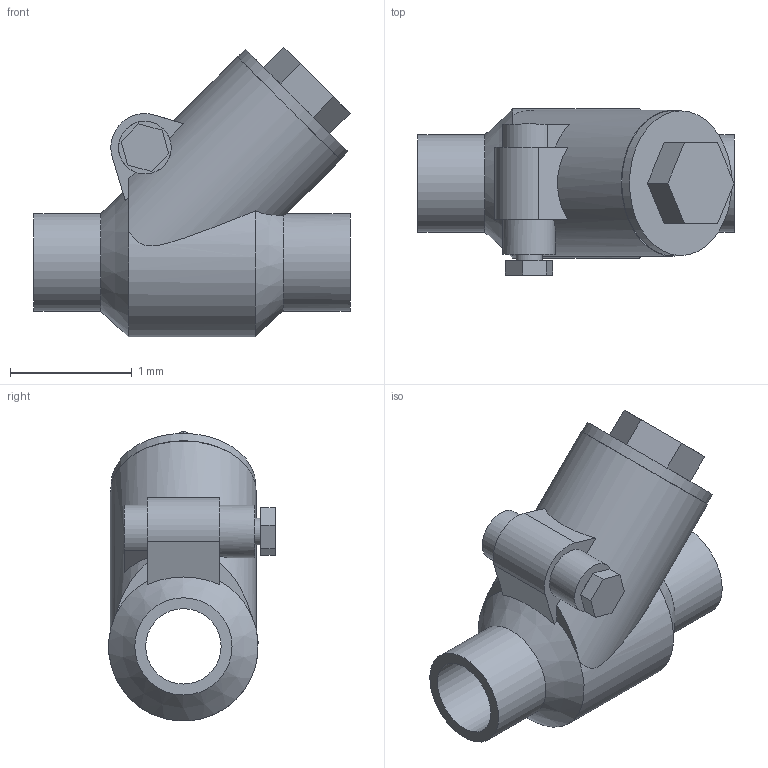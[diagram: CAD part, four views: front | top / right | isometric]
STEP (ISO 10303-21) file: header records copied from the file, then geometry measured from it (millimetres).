
FILE_DESCRIPTION(('Open CASCADE Model'),'2;1');
FILE_NAME('Open CASCADE Shape Model','2022-05-17T11:39:21',('Author'),( 'Open CASCADE'),'Open CASCADE STEP processor 7.3','Open CASCADE 7.3' ,'Unknown');
FILE_SCHEMA(('AUTOMOTIVE_DESIGN { 1 0 10303 214 1 1 1 1 }'));
Length unit declared in the file: millimetre
Products named in the file (1): Open CASCADE STEP translator 7.3 1
Bounding box: 2.6 x 1.37 x 2.38 mm (x, y, z)
Volume: 2.7 mm3; surface area: 23.5 mm2
Topology: 1 solids, 3 shells, 53 faces, 126 edges, 84 vertices
Faces by surface type: plane 33, cylinder 16, cone 4
Full cylindrical faces by diameter (mm): 0.22 x1, 0.433 x1, 0.62 x2, 0.738 x1, 0.8 x3, 1.19 x1, 1.2 x1
Entity records: 4166 total; most frequent: CARTESIAN_POINT 1673, DIRECTION 451, ORIENTED_EDGE 252, PCURVE 252, DEFINITIONAL_REPRESENTATION 252, LINE 238, VECTOR 238, EDGE_CURVE 126
